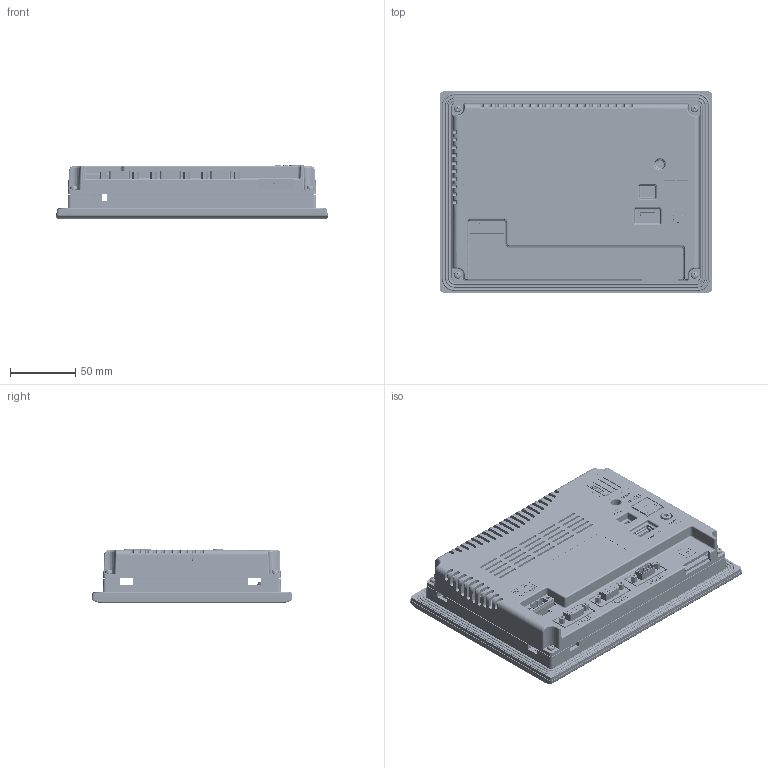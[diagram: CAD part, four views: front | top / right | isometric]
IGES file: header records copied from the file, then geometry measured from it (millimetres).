
Global section: file name: No Iges File Name specified; native system: AutoDesk Inventor R12.0; preprocessor: AutoDesk Inventor Iges Exporter R12.0; author: No Author specified; organization: No Organization specified; date: 20140318.124026; units: millimetre
Bounding box: 208 x 154 x 41.5 mm (x, y, z)
Volume: 370112.2 mm3; surface area: 287801.7 mm2
Topology: 5 solids, 5 shells, 16129 faces, 46908 edges, 31161 vertices
Faces by surface type: plane 14361, cylinder 587, revolution 541, bspline 511, cone 75, torus 42, sphere 12
